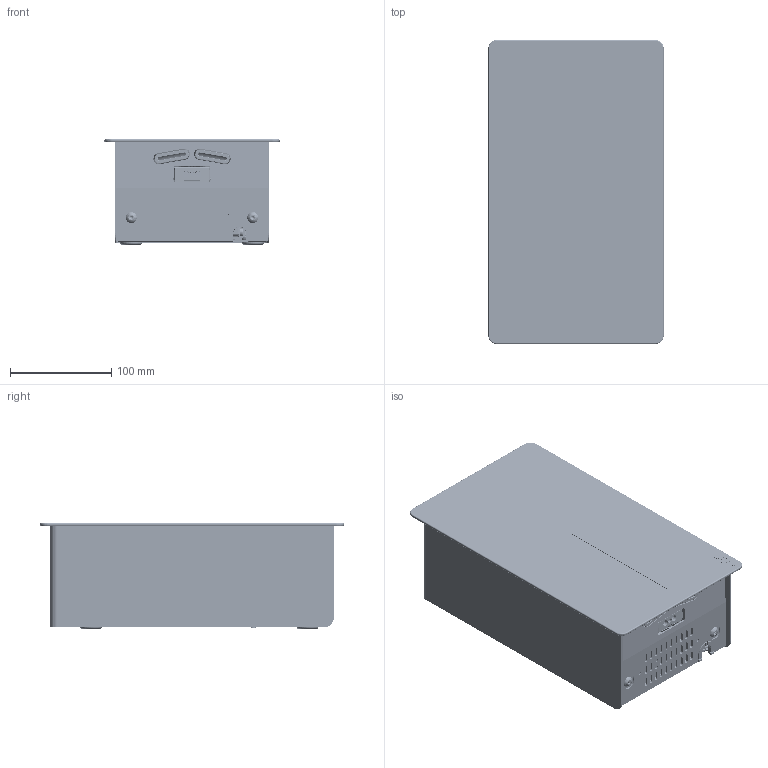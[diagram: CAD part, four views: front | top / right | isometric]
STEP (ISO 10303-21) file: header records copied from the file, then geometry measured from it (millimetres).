
FILE_DESCRIPTION(/* description */ ('Komplet indmad med bagplade'),/* implementation_level */ '2;1');
FILE_NAME(/* name */ 'X:\Standardvarer\4000 DAN DRYER LOKI håndtørrer\Tegninger\Public 3D files\400x DAN DRYER LOKI hand dryer.stp',/* time_stamp */ '2020-09-28T14:53:23+02:00',/* author */ ('Dan Dryer'),/* organization */ (''),/* preprocessor_version */ 'ST-DEVELOPER v16.1',/* originating_system */ 'Autodesk Inventor 2016',/* authorisation */ '');
FILE_SCHEMA (('AUTOMOTIVE_DESIGN { 1 0 10303 214 3 1 1 }'));
Products named in the file (11): 67010; 67000-10; 67000-11; 67000-12; 67000-13; 67000-14; Viking logo i streg 24x9 - tykke streger til brug i Inventor; 67000; 50607; 67405; 4000 DAN DRYER LOKI håndtørrer
Assembly tree (11 placements, depth 3):
  4000 DAN DRYER LOKI håndtørrer
    67010
    67000
      67000-10
      67000-11
      67000-12
      67000-13
      67000-14  x2
      Viking logo i streg 24x9 - tykke streger til brug i Inventor
    50607
    67405
Bounding box: 173 x 300 x 104.6 mm (x, y, z)
Volume: 705895.9 mm3; surface area: 659423.6 mm2
Topology: 22 solids, 60 shells, 6382 faces, 16612 edges, 10428 vertices
Faces by surface type: plane 2789, cylinder 1360, cone 932, bspline 848, torus 361, sphere 92
Full cylindrical faces by diameter (mm): 0.8 x2, 1.219 x2, 1.8 x7, 3 x84, 3.2 x60, 3.3 x7, 3.4 x6, 3.5 x2, 3.6 x2, 4 x58, 4.2 x4, 4.4 x6, 4.8 x2, 4.9 x2, 5 x2, 5.2 x2, 5.3 x4, 5.6 x4, 6 x6, 6.35 x22, 6.6 x1, 7 x2, 8 x11, 8.2 x2, 9.5 x3, 9.8 x4, 11.1 x2, 15 x2, 16 x4, 16.8 x4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
Entity records: 242929 total; most frequent: CARTESIAN_POINT 91083, ORIENTED_EDGE 30082, DIRECTION 29358, EDGE_CURVE 15035, AXIS2_PLACEMENT_3D 10619, VERTEX_POINT 9831, LINE 8120, VECTOR 8120
